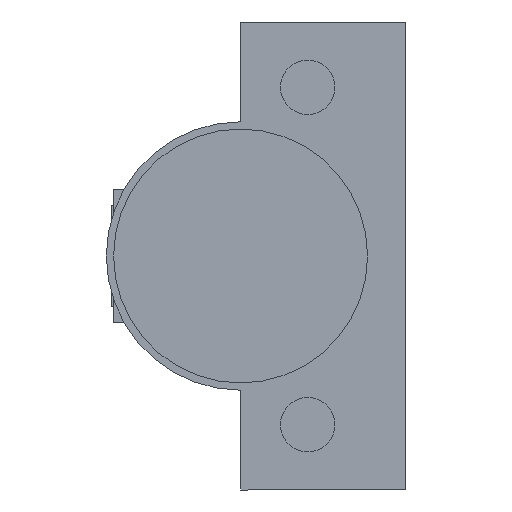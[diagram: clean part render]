
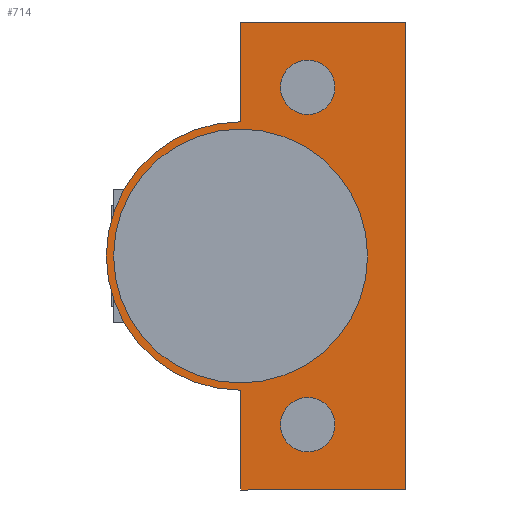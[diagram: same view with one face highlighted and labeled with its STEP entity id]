
A CAD part, front view. The second image highlights one B-rep face of the part: STEP entity #714.
In plain terms, the highlighted planar face has unit normal (0, -1, 0).
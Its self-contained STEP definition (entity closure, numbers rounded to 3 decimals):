
#21 = EDGE_LOOP ( 'NONE', ( #135, #136 ) ) ;
#24 = EDGE_LOOP ( 'NONE', ( #139, #140 ) ) ;
#26 = EDGE_LOOP ( 'NONE', ( #129, #130, #131, #132, #133, #134 ) ) ;
#32 = EDGE_LOOP ( 'NONE', ( #137, #138 ) ) ;
#129 = ORIENTED_EDGE ( 'NONE', *, *, #1624, .F. ) ;
#130 = ORIENTED_EDGE ( 'NONE', *, *, #1572, .T. ) ;
#131 = ORIENTED_EDGE ( 'NONE', *, *, #1575, .F. ) ;
#132 = ORIENTED_EDGE ( 'NONE', *, *, #1778, .F. ) ;
#133 = ORIENTED_EDGE ( 'NONE', *, *, #1739, .F. ) ;
#134 = ORIENTED_EDGE ( 'NONE', *, *, #1574, .F. ) ;
#135 = ORIENTED_EDGE ( 'NONE', *, *, #1566, .T. ) ;
#136 = ORIENTED_EDGE ( 'NONE', *, *, #1577, .T. ) ;
#137 = ORIENTED_EDGE ( 'NONE', *, *, #1737, .T. ) ;
#138 = ORIENTED_EDGE ( 'NONE', *, *, #1579, .T. ) ;
#139 = ORIENTED_EDGE ( 'NONE', *, *, #1655, .F. ) ;
#140 = ORIENTED_EDGE ( 'NONE', *, *, #1570, .F. ) ;
#364 = FACE_OUTER_BOUND ( 'NONE', #26, .T. ) ;
#369 = FACE_BOUND ( 'NONE', #21, .T. ) ;
#371 = FACE_BOUND ( 'NONE', #32, .T. ) ;
#373 = FACE_BOUND ( 'NONE', #24, .T. ) ;
#447 = CIRCLE ( 'NONE', #1734, 3.75 ) ;
#449 = VECTOR ( 'NONE', #1197, 1000. ) ;
#452 = CIRCLE ( 'NONE', #1713, 17.5 ) ;
#453 = LINE ( 'NONE', #1185, #449 ) ;
#456 = VECTOR ( 'NONE', #1204, 1000. ) ;
#458 = LINE ( 'NONE', #1198, #456 ) ;
#459 = CIRCLE ( 'NONE', #1704, 18.5 ) ;
#464 = CIRCLE ( 'NONE', #1710, 3.75 ) ;
#468 = CIRCLE ( 'NONE', #1711, 3.75 ) ;
#546 = VECTOR ( 'NONE', #1326, 1000. ) ;
#549 = LINE ( 'NONE', #1319, #546 ) ;
#605 = CIRCLE ( 'NONE', #1721, 17.5 ) ;
#624 = CIRCLE ( 'NONE', #1725, 3.75 ) ;
#625 = LINE ( 'NONE', #1424, #626 ) ;
#626 = VECTOR ( 'NONE', #1425, 1000. ) ;
#691 = LINE ( 'NONE', #1512, #692 ) ;
#692 = VECTOR ( 'NONE', #1513, 1000. ) ;
#714 = ADVANCED_FACE ( 'NONE', ( #364, #369, #371, #373 ), #1553, .F. ) ;
#771 = VERTEX_POINT ( 'NONE', #1078 ) ;
#772 = VERTEX_POINT ( 'NONE', #1070 ) ;
#773 = VERTEX_POINT ( 'NONE', #1079 ) ;
#774 = VERTEX_POINT ( 'NONE', #1080 ) ;
#776 = VERTEX_POINT ( 'NONE', #1082 ) ;
#777 = VERTEX_POINT ( 'NONE', #1077 ) ;
#778 = VERTEX_POINT ( 'NONE', #1083 ) ;
#779 = VERTEX_POINT ( 'NONE', #1084 ) ;
#780 = VERTEX_POINT ( 'NONE', #1085 ) ;
#783 = VERTEX_POINT ( 'NONE', #1088 ) ;
#871 = DIRECTION ( 'NONE',  ( 0., 1., 0. ) ) ;
#872 = DIRECTION ( 'NONE',  ( -1., 0., 0. ) ) ;
#1070 = CARTESIAN_POINT ( 'NONE',  ( 21.5, 0., -18.5 ) ) ;
#1077 = CARTESIAN_POINT ( 'NONE',  ( 27., 0., -23.25 ) ) ;
#1078 = CARTESIAN_POINT ( 'NONE',  ( 27., 0., 23.25 ) ) ;
#1079 = CARTESIAN_POINT ( 'NONE',  ( 44.25, 0., 32.25 ) ) ;
#1080 = CARTESIAN_POINT ( 'NONE',  ( 34.5, 0., -23.25 ) ) ;
#1082 = CARTESIAN_POINT ( 'NONE',  ( 44.25, 0., -32.25 ) ) ;
#1083 = CARTESIAN_POINT ( 'NONE',  ( 21.5, 0., 18.5 ) ) ;
#1084 = CARTESIAN_POINT ( 'NONE',  ( 39., 0., 0. ) ) ;
#1085 = CARTESIAN_POINT ( 'NONE',  ( 21.5, 0., -32.25 ) ) ;
#1088 = CARTESIAN_POINT ( 'NONE',  ( 21.5, 0., 32.25 ) ) ;
#1166 = CARTESIAN_POINT ( 'NONE',  ( 4., 0., 0. ) ) ;
#1168 = CARTESIAN_POINT ( 'NONE',  ( 34.5, 0., 23.25 ) ) ;
#1180 = CARTESIAN_POINT ( 'NONE',  ( 30.75, 0., -23.25 ) ) ;
#1181 = DIRECTION ( 'NONE',  ( 0., 1., 0. ) ) ;
#1182 = DIRECTION ( 'NONE',  ( -1., 0., 0. ) ) ;
#1185 = CARTESIAN_POINT ( 'NONE',  ( 44.25, 0., -32.25 ) ) ;
#1190 = CARTESIAN_POINT ( 'NONE',  ( 21.5, 0., 0. ) ) ;
#1191 = DIRECTION ( 'NONE',  ( 0., -1., 0. ) ) ;
#1192 = DIRECTION ( 'NONE',  ( -1., 0., 0. ) ) ;
#1197 = DIRECTION ( 'NONE',  ( 1., 0., 0. ) ) ;
#1198 = CARTESIAN_POINT ( 'NONE',  ( 44.25, 0., 32.25 ) ) ;
#1200 = CARTESIAN_POINT ( 'NONE',  ( 21.5, 0., 0. ) ) ;
#1201 = DIRECTION ( 'NONE',  ( 0., 1., 0. ) ) ;
#1202 = DIRECTION ( 'NONE',  ( -1., 0., 0. ) ) ;
#1204 = DIRECTION ( 'NONE',  ( 0., 0., -1. ) ) ;
#1206 = CARTESIAN_POINT ( 'NONE',  ( 30.75, 0., -23.25 ) ) ;
#1207 = DIRECTION ( 'NONE',  ( 0., 1., 0. ) ) ;
#1208 = DIRECTION ( 'NONE',  ( -1., 0., 0. ) ) ;
#1212 = CARTESIAN_POINT ( 'NONE',  ( 30.75, 0., 23.25 ) ) ;
#1213 = DIRECTION ( 'NONE',  ( 0., 1., 0. ) ) ;
#1214 = DIRECTION ( 'NONE',  ( -1., 0., 0. ) ) ;
#1319 = CARTESIAN_POINT ( 'NONE',  ( 21.5, 0., -31. ) ) ;
#1326 = DIRECTION ( 'NONE',  ( 0., 0., 1. ) ) ;
#1393 = CARTESIAN_POINT ( 'NONE',  ( 21.5, 0., 0. ) ) ;
#1396 = DIRECTION ( 'NONE',  ( 0., -1., 0. ) ) ;
#1397 = DIRECTION ( 'NONE',  ( -1., 0., 0. ) ) ;
#1406 = CARTESIAN_POINT ( 'NONE',  ( 30.75, 0., 23.25 ) ) ;
#1420 = DIRECTION ( 'NONE',  ( 0., 1., 0. ) ) ;
#1421 = DIRECTION ( 'NONE',  ( -1., 0., 0. ) ) ;
#1424 = CARTESIAN_POINT ( 'NONE',  ( 21.5, 0., 18.5 ) ) ;
#1425 = DIRECTION ( 'NONE',  ( 0., 0., 1. ) ) ;
#1512 = CARTESIAN_POINT ( 'NONE',  ( 44.25, 0., 32.25 ) ) ;
#1513 = DIRECTION ( 'NONE',  ( 1., 0., 0. ) ) ;
#1548 = VERTEX_POINT ( 'NONE', #1168 ) ;
#1549 = VERTEX_POINT ( 'NONE', #1166 ) ;
#1552 = CARTESIAN_POINT ( 'NONE',  ( 21.5, 0., 0. ) ) ;
#1553 = PLANE ( 'NONE',  #1671 ) ;
#1566 = EDGE_CURVE ( 'NONE', #777, #774, #447, .T. ) ;
#1570 = EDGE_CURVE ( 'NONE', #779, #1549, #452, .T. ) ;
#1572 = EDGE_CURVE ( 'NONE', #780, #776, #453, .T. ) ;
#1574 = EDGE_CURVE ( 'NONE', #772, #778, #459, .T. ) ;
#1575 = EDGE_CURVE ( 'NONE', #773, #776, #458, .T. ) ;
#1577 = EDGE_CURVE ( 'NONE', #774, #777, #464, .T. ) ;
#1579 = EDGE_CURVE ( 'NONE', #1548, #771, #468, .T. ) ;
#1624 = EDGE_CURVE ( 'NONE', #780, #772, #549, .T. ) ;
#1655 = EDGE_CURVE ( 'NONE', #1549, #779, #605, .T. ) ;
#1671 = AXIS2_PLACEMENT_3D ( 'NONE', #1552, #871, #872 ) ;
#1704 = AXIS2_PLACEMENT_3D ( 'NONE', #1200, #1201, #1202 ) ;
#1710 = AXIS2_PLACEMENT_3D ( 'NONE', #1206, #1207, #1208 ) ;
#1711 = AXIS2_PLACEMENT_3D ( 'NONE', #1212, #1213, #1214 ) ;
#1713 = AXIS2_PLACEMENT_3D ( 'NONE', #1190, #1191, #1192 ) ;
#1721 = AXIS2_PLACEMENT_3D ( 'NONE', #1393, #1396, #1397 ) ;
#1725 = AXIS2_PLACEMENT_3D ( 'NONE', #1406, #1420, #1421 ) ;
#1734 = AXIS2_PLACEMENT_3D ( 'NONE', #1180, #1181, #1182 ) ;
#1737 = EDGE_CURVE ( 'NONE', #771, #1548, #624, .T. ) ;
#1739 = EDGE_CURVE ( 'NONE', #778, #783, #625, .T. ) ;
#1778 = EDGE_CURVE ( 'NONE', #783, #773, #691, .T. ) ;
